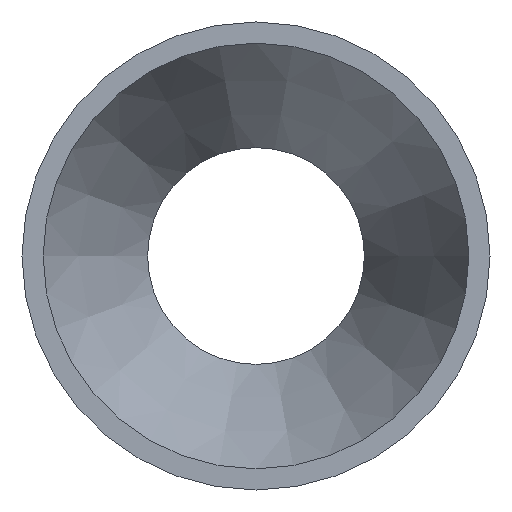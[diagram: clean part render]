
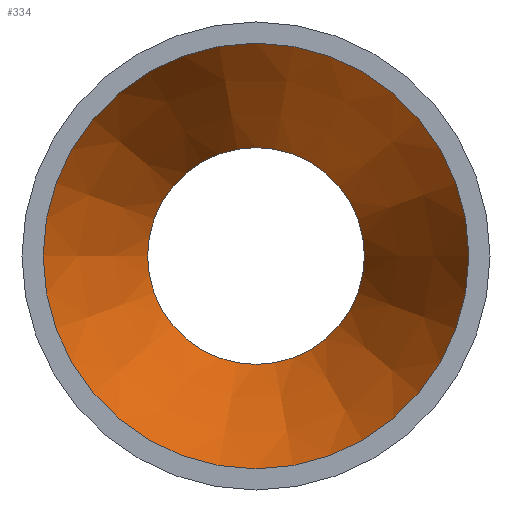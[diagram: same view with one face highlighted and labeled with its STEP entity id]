
A CAD part, left-side view. The second image highlights one B-rep face of the part: STEP entity #334.
In plain terms, the highlighted conical face has half-angle 23.311 degrees and reference radius 20.701 mm.
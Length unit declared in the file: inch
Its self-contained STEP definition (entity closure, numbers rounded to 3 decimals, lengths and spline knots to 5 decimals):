
#66=FACE_OUTER_BOUND('',#82,.T.);
#82=EDGE_LOOP('',(#235,#236,#237,#238,#239,#240));
#104=LINE('',#580,#114);
#114=VECTOR('',#447,0.815);
#127=CIRCLE('',#375,0.55);
#128=CIRCLE('',#376,1.08);
#129=CIRCLE('',#377,1.08);
#130=CIRCLE('',#378,0.55);
#159=VERTEX_POINT('',#576);
#160=VERTEX_POINT('',#577);
#161=VERTEX_POINT('',#579);
#162=VERTEX_POINT('',#581);
#192=EDGE_CURVE('',#159,#160,#127,.T.);
#193=EDGE_CURVE('',#160,#161,#104,.T.);
#194=EDGE_CURVE('',#162,#161,#128,.T.);
#195=EDGE_CURVE('',#161,#162,#129,.T.);
#196=EDGE_CURVE('',#160,#159,#130,.T.);
#235=ORIENTED_EDGE('',*,*,#192,.T.);
#236=ORIENTED_EDGE('',*,*,#193,.T.);
#237=ORIENTED_EDGE('',*,*,#194,.F.);
#238=ORIENTED_EDGE('',*,*,#195,.F.);
#239=ORIENTED_EDGE('',*,*,#193,.F.);
#240=ORIENTED_EDGE('',*,*,#196,.T.);
#314=CONICAL_SURFACE('',#374,0.815,0.407);
#334=ADVANCED_FACE('',(#66),#314,.F.);
#374=AXIS2_PLACEMENT_3D('',#575,#443,#444);
#375=AXIS2_PLACEMENT_3D('',#578,#445,#446);
#376=AXIS2_PLACEMENT_3D('',#582,#448,#449);
#377=AXIS2_PLACEMENT_3D('',#583,#450,#451);
#378=AXIS2_PLACEMENT_3D('',#584,#452,#453);
#443=DIRECTION('center_axis',(-1.,0.,0.));
#444=DIRECTION('ref_axis',(0.,1.,0.));
#445=DIRECTION('center_axis',(1.,0.,0.));
#446=DIRECTION('ref_axis',(0.,1.,0.));
#447=DIRECTION('',(-0.918,-0.396,0.));
#448=DIRECTION('center_axis',(1.,0.,0.));
#449=DIRECTION('ref_axis',(0.,1.,0.));
#450=DIRECTION('center_axis',(1.,0.,0.));
#451=DIRECTION('ref_axis',(0.,1.,0.));
#452=DIRECTION('center_axis',(1.,0.,0.));
#453=DIRECTION('ref_axis',(0.,1.,0.));
#575=CARTESIAN_POINT('Origin',(1.875,0.,0.));
#576=CARTESIAN_POINT('',(2.49,0.55,0.));
#577=CARTESIAN_POINT('',(2.49,-0.55,0.));
#578=CARTESIAN_POINT('Origin',(2.49,0.,0.));
#579=CARTESIAN_POINT('',(1.26,-1.08,0.));
#580=CARTESIAN_POINT('',(1.875,-0.815,0.));
#581=CARTESIAN_POINT('',(1.26,1.08,0.));
#582=CARTESIAN_POINT('Origin',(1.26,0.,0.));
#583=CARTESIAN_POINT('Origin',(1.26,0.,0.));
#584=CARTESIAN_POINT('Origin',(2.49,0.,0.));
